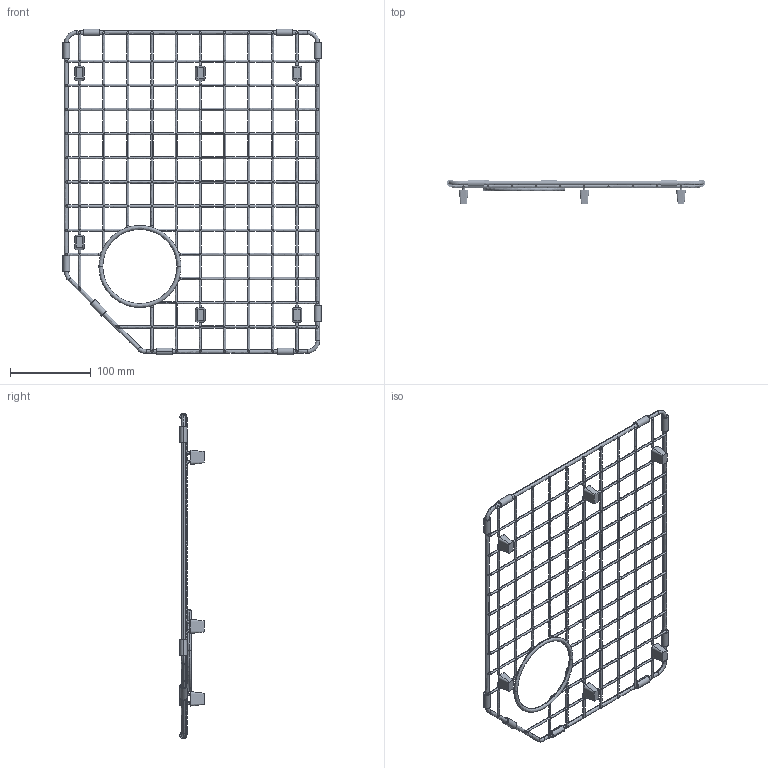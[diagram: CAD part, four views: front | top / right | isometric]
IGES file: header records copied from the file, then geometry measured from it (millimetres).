
Start section: SolidWorks IGES file using NURBS representation for surfaces
Global section: file name: D:\JÚLIO\#1# PRODUTOS\LAVA-LOUÇAS\Grelhas de lava-louças\4A40311 - grelha drt p l. louça farmhouse 2 cubas\biblioteca 3D\4A40311_igs.IGS; native system: SolidWorks 2018; preprocessor: SolidWorks 2018; author: Julio; date: 180703.120901; units: millimetre
Bounding box: 320.5 x 29.95 x 404.5 mm (x, y, z)
Surface area: 92240.8 mm2 (no closed solid volume)
Topology: 0 solids, 0 shells, 704 faces, 21996 edges, 21996 vertices
Faces by surface type: bspline 704
